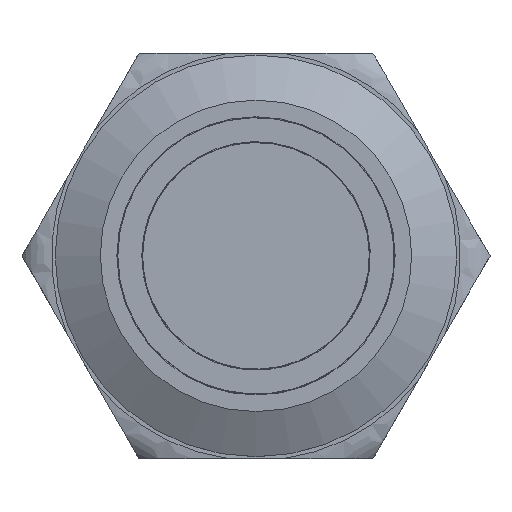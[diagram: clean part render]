
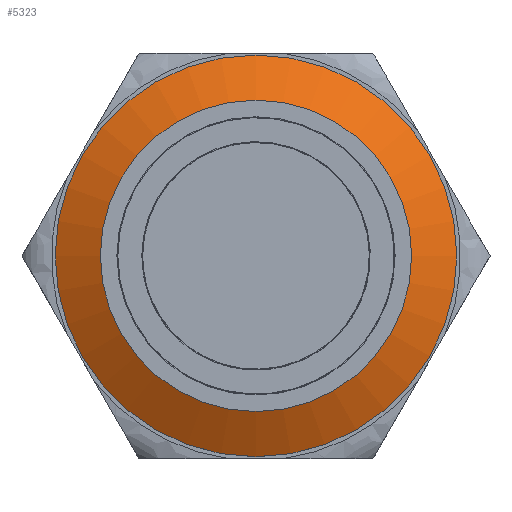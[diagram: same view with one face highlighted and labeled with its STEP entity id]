
A CAD part, top view. The second image highlights one B-rep face of the part: STEP entity #5323.
In plain terms, the highlighted conical face has half-angle 62.049 degrees and reference radius 10.9 mm.
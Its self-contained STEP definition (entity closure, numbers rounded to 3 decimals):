
#147=CONICAL_SURFACE('',#6300,10.9,62.049);
#1940=EDGE_LOOP('',(#2589));
#1941=EDGE_LOOP('',(#2590));
#2589=ORIENTED_EDGE('',*,*,#3908,.F.);
#2590=ORIENTED_EDGE('',*,*,#3907,.F.);
#3907=EDGE_CURVE('',#5790,#5790,#4494,.T.);
#3908=EDGE_CURVE('',#5791,#5791,#4495,.T.);
#4494=CIRCLE('',#6278,10.9);
#4495=CIRCLE('',#6280,8.45);
#5323=ADVANCED_FACE('',(#5585,#5586),#147,.T.);
#5585=FACE_BOUND('',#1940,.T.);
#5586=FACE_BOUND('',#1941,.T.);
#5790=VERTEX_POINT('',#8362);
#5791=VERTEX_POINT('',#8365);
#6278=AXIS2_PLACEMENT_3D('',#8361,#6960,#6961);
#6280=AXIS2_PLACEMENT_3D('',#8364,#6964,#6965);
#6300=AXIS2_PLACEMENT_3D('',#8825,#7004,#7005);
#6960=DIRECTION('',(0.,0.,-1.));
#6961=DIRECTION('',(-1.,0.,0.));
#6964=DIRECTION('',(0.,0.,1.));
#6965=DIRECTION('',(-1.,0.,0.));
#7004=DIRECTION('',(0.,0.,-1.));
#7005=DIRECTION('',(-1.,0.,0.));
#8361=CARTESIAN_POINT('',(0.,0.,10.));
#8362=CARTESIAN_POINT('',(-10.9,0.,10.));
#8364=CARTESIAN_POINT('',(0.,0.,11.3));
#8365=CARTESIAN_POINT('',(-8.45,0.,11.3));
#8825=CARTESIAN_POINT('',(0.,0.,10.));
